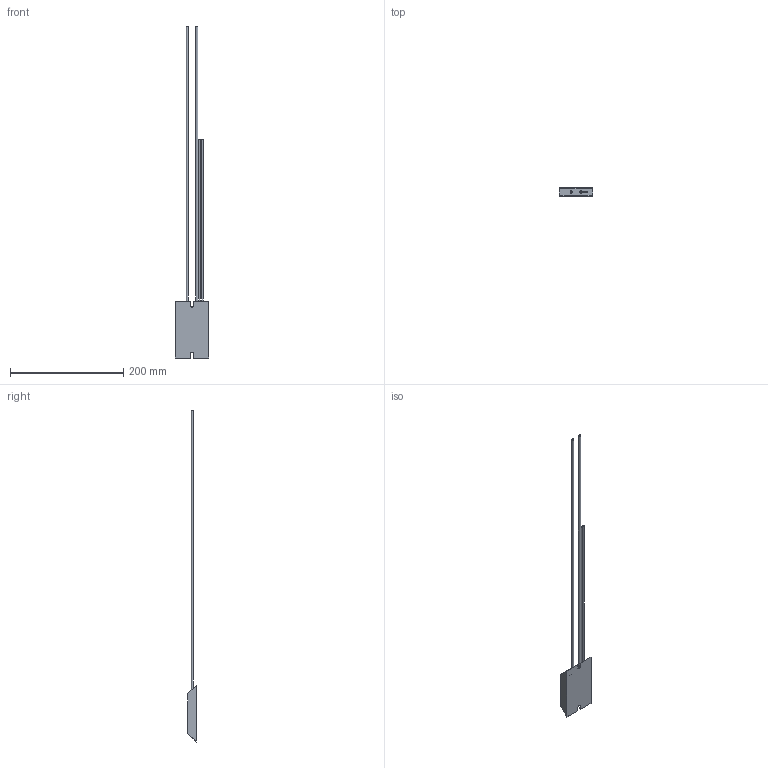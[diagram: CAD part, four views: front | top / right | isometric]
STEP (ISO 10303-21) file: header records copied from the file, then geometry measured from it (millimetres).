
FILE_DESCRIPTION(/* description */ (''),/* implementation_level */ '2;1');
FILE_NAME(/* name */ 'C:\_Vault\Dati\CATALOGO\RFD\RFDVT100.stp',/* time_stamp */ '2014-03-25T10:55:22+01:00',/* author */ ('stefano'),/* organization */ (''),/* preprocessor_version */ 'ST-DEVELOPER v15.2',/* originating_system */ 'Autodesk Inventor 2014',/* authorisation */ '');
FILE_SCHEMA (('AUTOMOTIVE_DESIGN { 1 0 10303 214 3 1 1 }'));
Length unit declared in the file: millimetre
Products named in the file (1): RFDVT100
Bounding box: 60 x 15 x 586.6 mm (x, y, z)
Volume: 83657.6 mm3; surface area: 33513 mm2
Topology: 1 solids, 1 shells, 36 faces, 78 edges, 52 vertices
Faces by surface type: plane 26, cylinder 10
Full cylindrical faces by diameter (mm): 1.5 x2, 2 x2, 2.5 x2, 4 x2
Entity records: 1048 total; most frequent: DIRECTION 164, CARTESIAN_POINT 159, ORIENTED_EDGE 140, EDGE_CURVE 70, AXIS2_PLACEMENT_3D 57, EDGE_LOOP 52, VERTEX_POINT 52, LINE 50
